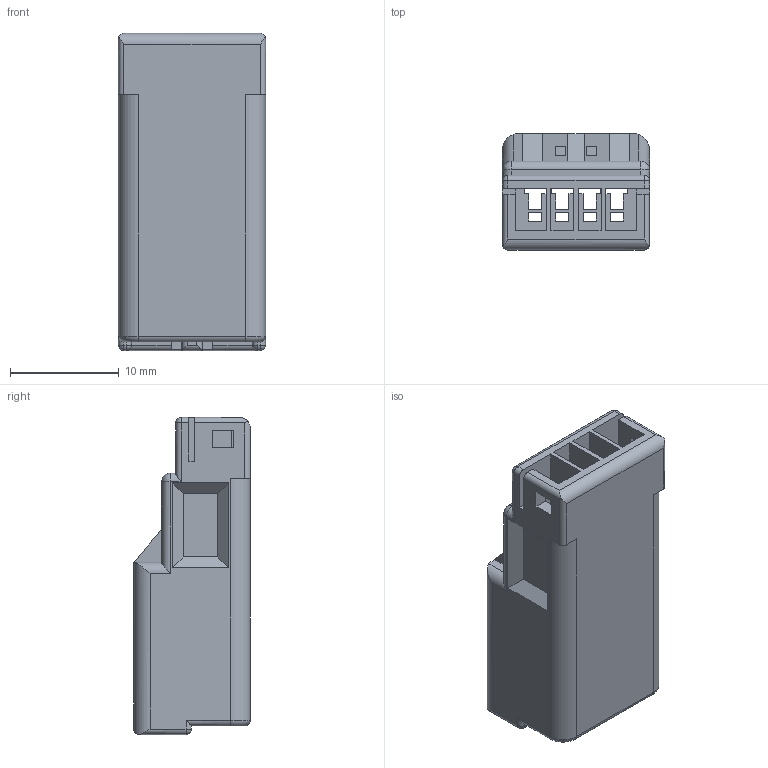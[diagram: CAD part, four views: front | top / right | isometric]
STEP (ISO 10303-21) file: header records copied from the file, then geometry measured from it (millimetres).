
FILE_DESCRIPTION((''),'2;1');
FILE_NAME('C-0174967-02-3','2007-09-02T',('workeradm'),('Tyco Electronics Corporation'),'PRO/ENGINEER BY PARAMETRIC TECHNOLOGY CORPORATION, 2005450','PRO/ENGINEER BY PARAMETRIC TECHNOLOGY CORPORATION, 2005450','');
FILE_SCHEMA(('CONFIG_CONTROL_DESIGN', 'GEOMETRIC_VALIDATION_PROPERTIES_MIM'));
Length unit declared in the file: millimetre
Products named in the file (1): C-0174967-02-3
Bounding box: 13.5 x 10.7 x 29.1 mm (x, y, z)
Volume: 1867.8 mm3; surface area: 2927 mm2
Topology: 1 solids, 1 shells, 213 faces, 587 edges, 372 vertices
Faces by surface type: plane 158, cylinder 45, sphere 8, torus 2
Entity records: 6958 total; most frequent: CARTESIAN_POINT 1407, ORIENTED_EDGE 1174, DIRECTION 1033, EDGE_CURVE 587, VECTOR 507, LINE 507, VERTEX_POINT 372, AXIS2_PLACEMENT_3D 263
